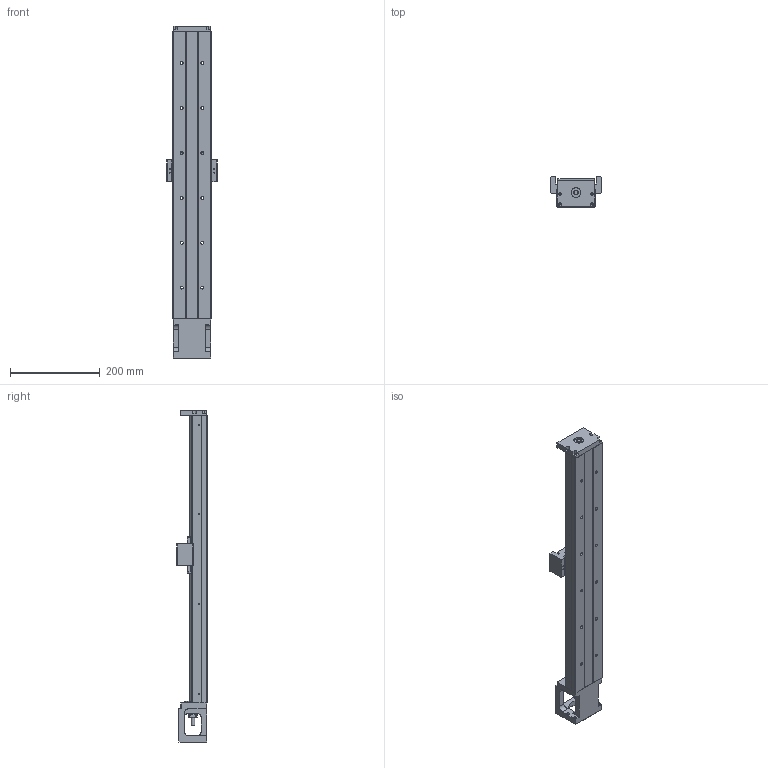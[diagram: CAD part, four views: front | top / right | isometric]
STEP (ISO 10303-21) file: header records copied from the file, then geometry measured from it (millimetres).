
FILE_DESCRIPTION(/* description */ (''),/* implementation_level */ '2;1');
FILE_NAME(/* name */ '46S-640.stp',/* time_stamp */ '2019-09-05T13:25:27+08:00',/* author */ (''),/* organization */ (''),/* preprocessor_version */ 'ST-DEVELOPER v16',/* originating_system */ 'SIEMENS PLM Software NX 10.0',/* authorisation */ '');
FILE_SCHEMA (('AP203_CONFIGURATION_CONTROLLED_3D_DESIGN_OF_MECHANICAL_PARTS_AND_ASSEMBLIES_MIM_LF { 1 0 10303 403 2 1 2}'));
Length unit declared in the file: millimetre
Products named in the file (1): 0154B620C536ce87
Bounding box: 112 x 68 x 740 mm (x, y, z)
Volume: 1566430.6 mm3; surface area: 348175.8 mm2
Topology: 6 solids, 17 shells, 688 faces, 1795 edges, 1184 vertices
Faces by surface type: plane 326, cylinder 242, cone 59, bspline 53, torus 8
Full cylindrical faces by diameter (mm): 2 x2, 2.11 x2, 2.15 x8, 2.42 x6, 2.5 x4, 3 x4, 3.2 x4, 3.3 x12, 3.4 x8, 4 x2, 4.2 x4, 4.5 x8, 5 x8, 6 x8, 6.35 x2, 6.6 x12, 6.7 x2, 8 x1, 8.7 x4, 9.6 x1, 10 x3, 11 x12, 12 x1, 14.95 x2, 15 x1, 16 x2, 22 x3, 27.5 x1, 44 x1, 50 x1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
Entity records: 28871 total; most frequent: CARTESIAN_POINT 13344, ORIENTED_EDGE 3084, DIRECTION 2964, EDGE_CURVE 1542, VERTEX_POINT 1111, AXIS2_PLACEMENT_3D 1102, EDGE_LOOP 971, LINE 760
